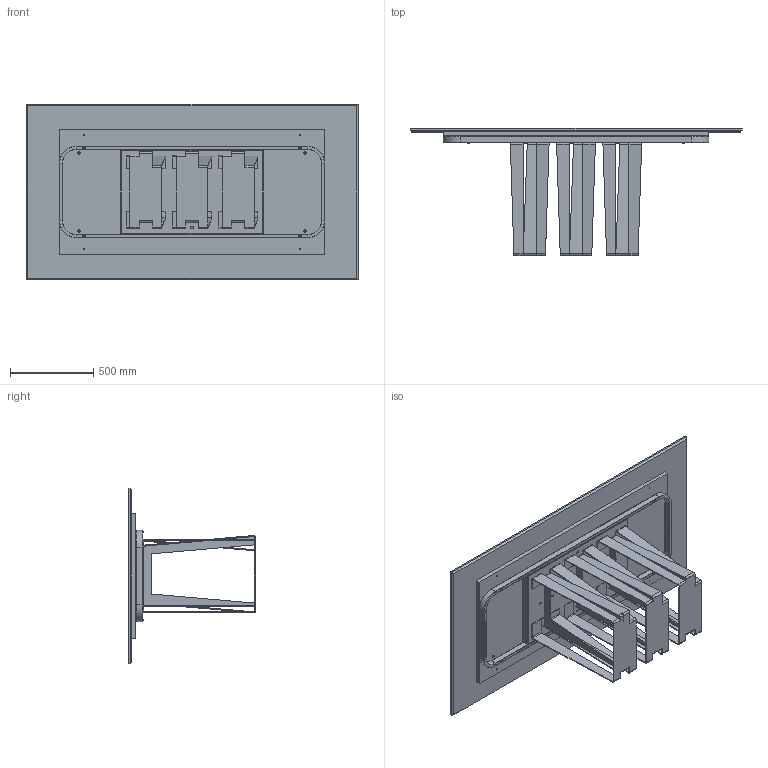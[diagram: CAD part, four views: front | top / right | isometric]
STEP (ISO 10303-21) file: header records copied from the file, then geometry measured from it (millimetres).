
FILE_DESCRIPTION (( 'STEP AP203' ), '1' );
FILE_NAME ('NA21M.STEP', '2024-08-07T14:40:28', ( '' ), ( '' ), 'SwSTEP 2.0', 'SolidWorks 2022', '' );
FILE_SCHEMA (( 'CONFIG_CONTROL_DESIGN' ));
Length unit declared in the file: millimetre
Products named in the file (9): M8xXXmm_M8x55mm; TRUXXXXXX-00-NOBILITATO GR CON SUPP TRUCIOLARE SP. 25_TRU00004_1600x720; TTAV01-01-TELAIO UNIVERSALE X TAVOLI 180 240cm; TTAV01_01-01-TELAIO UNIVERSALE X TAVOLI 180 240cm_Default<A macchina>; NA21M; M2XMXX-00-Piani rettangolari in marmo_2000x1060; NAB000000-00-NARCISO BASE SING. GREZZA; M2X-00-Piani rettangolari marmo_2000*1060; TTAV01_02-01-VASSOIO IRRIGIDIMENTO TELAIO UNIVERSALE
Assembly tree (19 placements, depth 3):
  NA21M
    M2XMXX-00-Piani rettangolari in marmo_2000x1060
      M2X-00-Piani rettangolari marmo_2000*1060
      TRUXXXXXX-00-NOBILITATO GR CON SUPP TRUCIOLARE SP. 25_TRU00004_1600x720
    TTAV01-01-TELAIO UNIVERSALE X TAVOLI 180 240cm
      TTAV01_01-01-TELAIO UNIVERSALE X TAVOLI 180 240cm_Default<A macchina>
      TTAV01_02-01-VASSOIO IRRIGIDIMENTO TELAIO UNIVERSALE
    NAB000000-00-NARCISO BASE SING. GREZZA  x3
    M8xXXmm_M8x55mm  x10
Bounding box: 2000 x 765 x 1060 mm (x, y, z)
Volume: 83667386.6 mm3; surface area: 11760097.3 mm2
Topology: 27 solids, 27 shells, 1177 faces, 2889 edges, 1737 vertices
Faces by surface type: plane 591, cylinder 316, cone 162, torus 72, bspline 36
Entity records: 20031 total; most frequent: CARTESIAN_POINT 3593, DIRECTION 3258, ORIENTED_EDGE 3086, EDGE_CURVE 1543, AXIS2_PLACEMENT_3D 1154, VERTEX_POINT 981, VECTOR 950, LINE 950
